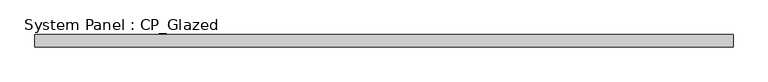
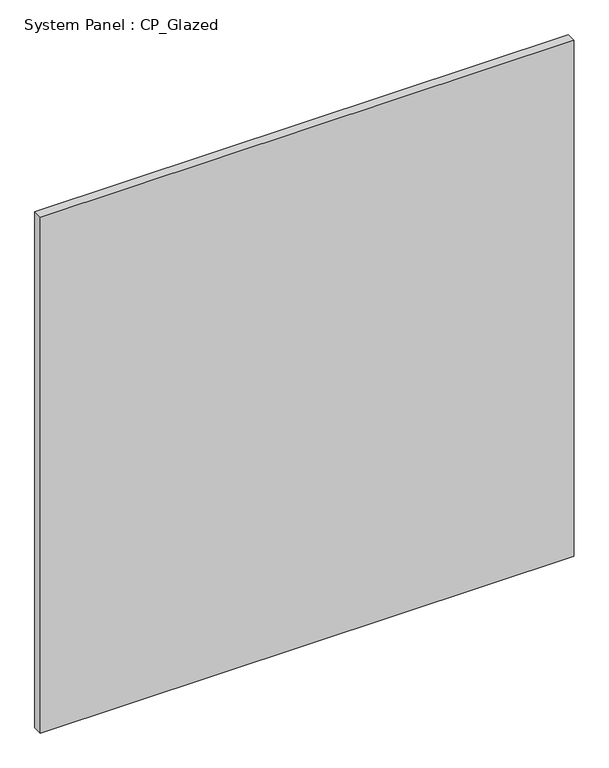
"""IFC4 building model written with IfcOpenShell, lengths in millimetres: plate geometry, System Panel : CP_Glazed."""

from ifc_helpers import new_model, si_unit, origin, origin_with_axes, place, context, project, spatial, polyline, outline, extrude, source, transform, mapped, element, save


def system_panel_cp_glazed_6d55238a(model_context):
    return source(origin(), model_context, "Body", "SweptSolid", [
        extrude(outline(polyline([(723.9, 19.05), (-723.9, 19.05), (-723.9, 44.45), (723.9, 44.45), (723.9, 19.05)])), origin_with_axes(), (0.0, 0.0, 1.0), 1479.55),
    ])


if __name__ == "__main__":
    model = new_model("IFC4")
    model_context = context("Model", 3, world=origin())
    ifc_project = project(units=[si_unit("LENGTHUNIT", "METRE", prefix="MILLI")], contexts=[model_context])
    site = spatial("IfcSite", under=ifc_project)
    building = spatial("IfcBuilding", under=site)
    placement = place(None, origin())
    system_panel_cp_glazed_shape = system_panel_cp_glazed_6d55238a(model_context)
    element("IfcPlate", 1, ObjectType="System Panel : CP_Glazed", at=placement, inside=building, context=model_context, shape_type="MappedRepresentation", body=[
        mapped(system_panel_cp_glazed_shape, transform((0.0, 0.0, 0.0), x_axis=(1.0, 0.0, 0.0), y_axis=(0.0, 1.0, 0.0), z_axis=(0.0, 0.0, 1.0))),
    ])
    save(model, "model.ifc")
